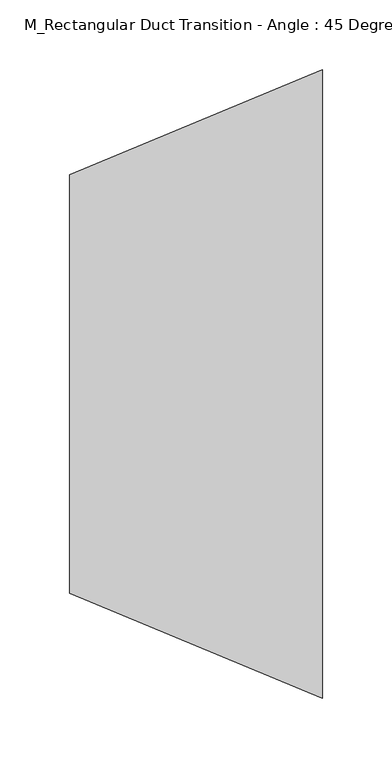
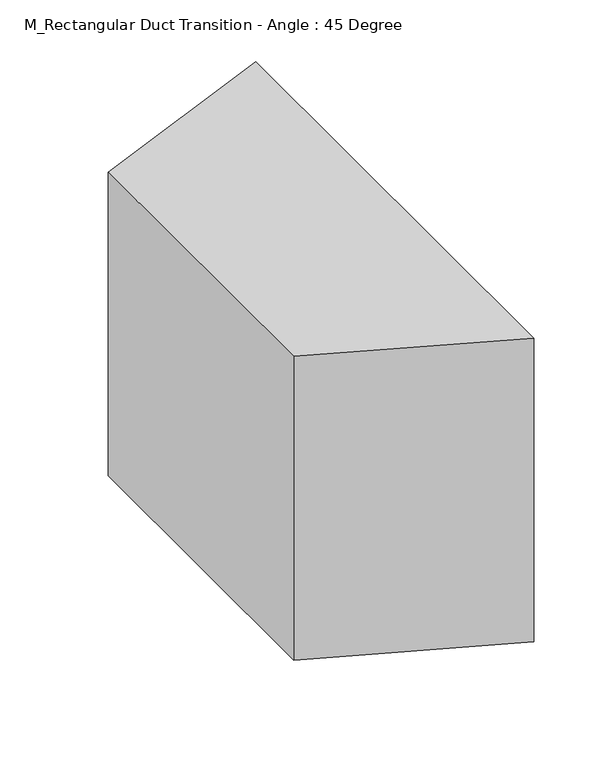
"""IFC4 building model written with IfcOpenShell, lengths in millimetres: duct fitting geometry, M_Rectangular Duct Transition - Angle : 45 Degree."""

from ifc_helpers import new_model, si_unit, frame, origin, place, context, project, spatial, polyline, outline, extrude, source, transform, mapped, element, save


def m_rectangular_duct_transition_angle_45_degree_685b1f83(model_context):
    return source(origin(), model_context, "Body", "SweptSolid", [
        extrude(outline(polyline([(-150.0, 0.0), (150.0, 0.0), (225.0, -181.0660172), (-225.0, -181.0660172), (-150.0, 0.0)])), frame((0.0, 0.0, -150.0), z_axis=(-1.2959952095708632e-12, 0.0, 1.0), x_axis=(0.0, 1.0, 0.0)), (0.0, 0.0, 1.0), 300.0),
        extrude(outline(polyline([(0.0, -150.0), (0.0, 150.0), (181.0660172, 225.0), (181.0660172, -225.0), (0.0, -150.0)])), frame((0.0, 0.0, -150.0), z_axis=(0.0, 0.0, 1.0), x_axis=(1.0, 0.0, 0.0)), (0.0, 0.0, 1.0), 300.0),
        extrude(outline(polyline([(0.0, -150.0), (0.0, 150.0), (181.0660172, 225.0), (181.0660172, -225.0), (0.0, -150.0)])), frame((0.0, 0.0, -150.0), z_axis=(0.0, 0.0, 1.0), x_axis=(1.0, 0.0, 0.0)), (0.0, 0.0, 1.0), 300.0),
    ])


if __name__ == "__main__":
    model = new_model("IFC4")
    model_context = context("Model", 3, world=origin())
    ifc_project = project(units=[si_unit("LENGTHUNIT", "METRE", prefix="MILLI")], contexts=[model_context])
    site = spatial("IfcSite", under=ifc_project)
    building = spatial("IfcBuilding", under=site)
    placement = place(None, origin())
    m_rectangular_duct_transition_angle_45_degree_shape = m_rectangular_duct_transition_angle_45_degree_685b1f83(model_context)
    element("IfcDuctFitting", 1, ObjectType="M_Rectangular Duct Transition - Angle : 45 Degree", at=placement, inside=building, context=model_context, shape_type="MappedRepresentation", body=[
        mapped(m_rectangular_duct_transition_angle_45_degree_shape, transform((0.0, 0.0, 0.0), x_axis=(1.0, 0.0, 0.0), y_axis=(0.0, 1.0, 0.0), z_axis=(0.0, 0.0, 1.0))),
    ])
    save(model, "model.ifc")
